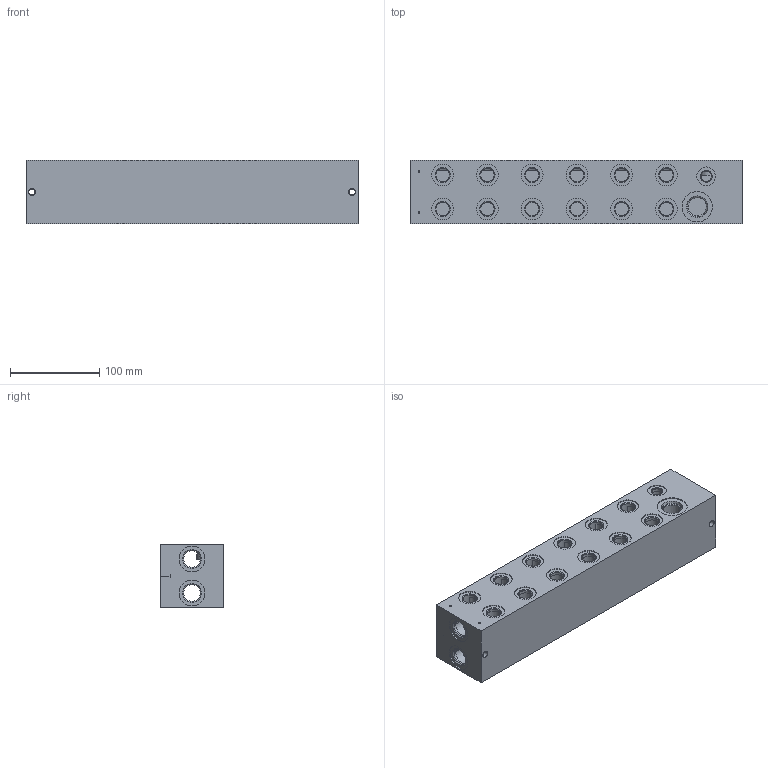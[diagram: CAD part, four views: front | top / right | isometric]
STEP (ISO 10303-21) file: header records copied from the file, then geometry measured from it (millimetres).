
FILE_DESCRIPTION((''),'2;1');
FILE_NAME('27564800','2015-11-27T',('Ahcz.brigadnik05'),(''),'PRO/ENGINEER BY PARAMETRIC TECHNOLOGY CORPORATION, 2015110','PRO/ENGINEER BY PARAMETRIC TECHNOLOGY CORPORATION, 2015110','');
FILE_SCHEMA(('AUTOMOTIVE_DESIGN { 1 0 10303 214 1 1 1 1 }'));
Length unit declared in the file: millimetre
Products named in the file (1): 27564800
Bounding box: 371 x 71 x 71 mm (x, y, z)
Volume: 607798.7 mm3; surface area: 233456.2 mm2
Topology: 1 solids, 50 shells, 433 faces, 1668 edges, 1636 vertices
Faces by surface type: cylinder 295, plane 84, cone 54
Entity records: 24589 total; most frequent: CARTESIAN_POINT 5049, DIRECTION 3121, ORIENTED_EDGE 2146, PRESENTATION_STYLE_ASSIGNMENT 1767, STYLED_ITEM 1767, CURVE_STYLE 1711, EDGE_CURVE 1171, AXIS2_PLACEMENT_3D 1115
